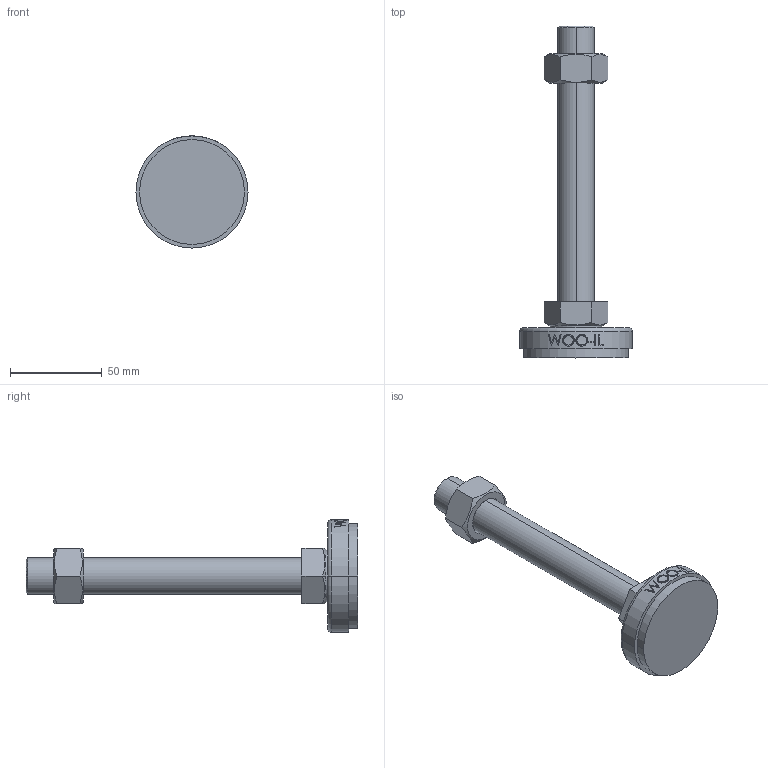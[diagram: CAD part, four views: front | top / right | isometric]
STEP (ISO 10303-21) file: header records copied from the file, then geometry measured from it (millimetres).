
FILE_DESCRIPTION (( 'STEP AP214' ), '1' );
FILE_NAME ('NS61-M20-150.step', '2021-01-11T05:46:41', ( '' ), ( '' ), 'SwSTEP 2.0', 'SolidWorks 2019', '' );
FILE_SCHEMA (( 'AUTOMOTIVE_DESIGN' ));
Length unit declared in the file: millimetre
Products named in the file (2): NS61-M20-150
Bounding box: 61 x 180.5 x 61 mm (x, y, z)
Volume: 111256.3 mm3; surface area: 24552.1 mm2
Topology: 3 solids, 3 shells, 96 faces, 227 edges, 148 vertices
Faces by surface type: plane 48, cylinder 18, bspline 16, cone 12, torus 2
Entity records: 4296 total; most frequent: CARTESIAN_POINT 2151, ORIENTED_EDGE 454, DIRECTION 381, EDGE_CURVE 227, VERTEX_POINT 148, AXIS2_PLACEMENT_3D 142, EDGE_LOOP 109, VECTOR 97
